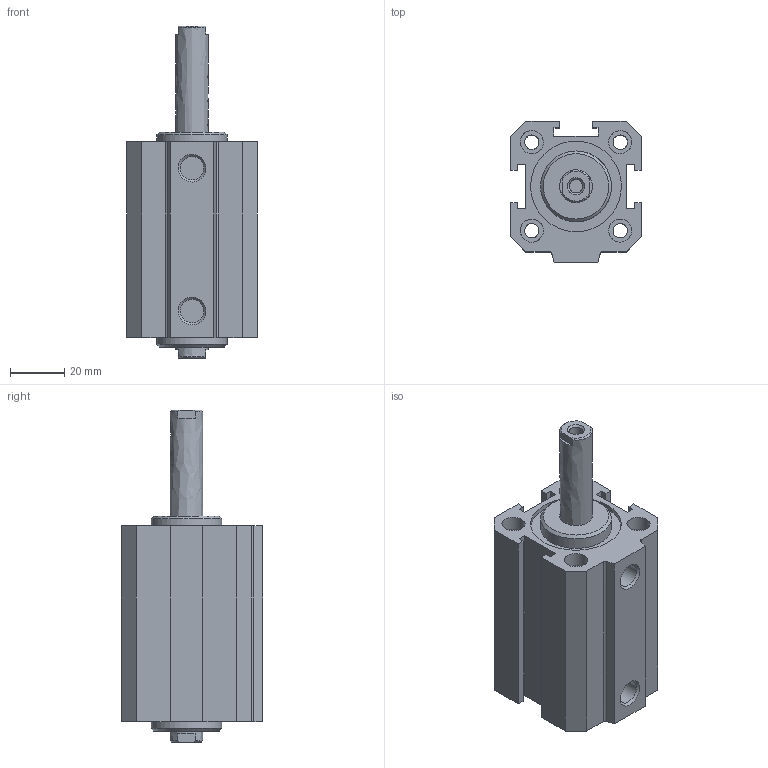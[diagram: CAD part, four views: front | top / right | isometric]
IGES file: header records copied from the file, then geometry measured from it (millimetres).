
Global section: file name: 1514_32_0035; native system: Autodesk Inventor 2014; preprocessor: unknown; author: A. Manieri; date: 20160824.113530; units: millimetre
Bounding box: 48 x 52 x 122 mm (x, y, z)
Volume: 123114.3 mm3; surface area: 42902.6 mm2
Topology: 2 solids, 2 shells, 106 faces, 276 edges, 194 vertices
Faces by surface type: bspline 106
